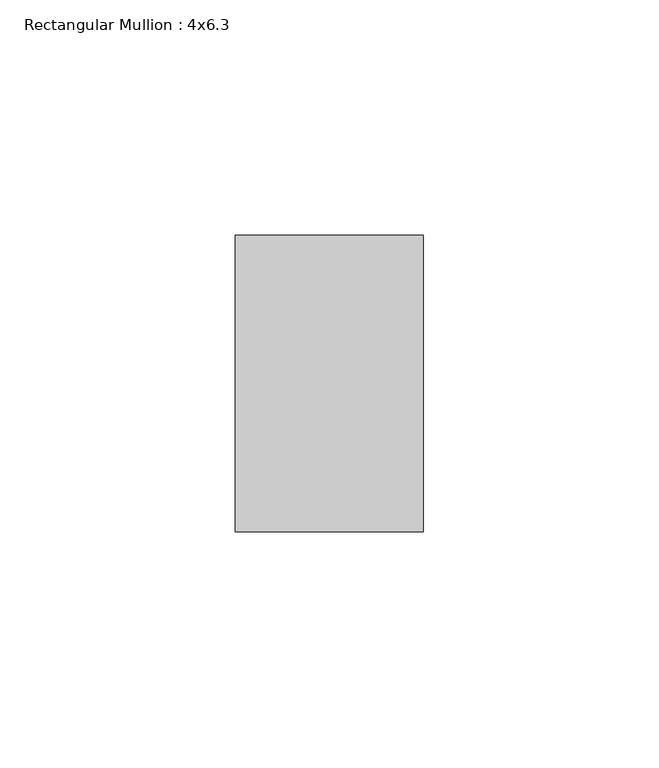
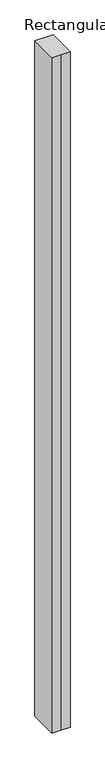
"""IFC4 building model written with IfcOpenShell, lengths in millimetres: member geometry, Rectangular Mullion : 4x6.3."""

from ifc_helpers import new_model, si_unit, frame, origin, place, context, project, spatial, polyline, outline, extrude, source, transform, mapped, element, save


def rectangular_mullion_4x6_3_c7492cc3(model_context):
    return source(origin(), model_context, "Body", "SweptSolid", [
        extrude(outline(polyline([(-20.0, 20.0), (-20.0, 83.0), (20.0, 83.0), (20.0, 20.0), (0.0, 20.0), (-20.0, 20.0)])), frame((0.0, 0.0, -1554.214977), z_axis=(0.0, 0.0, 1.0), x_axis=(1.0, 0.0, 0.0)), (0.0, 0.0, 1.0), 1554.214977),
    ])


if __name__ == "__main__":
    model = new_model("IFC4")
    model_context = context("Model", 3, world=origin())
    ifc_project = project(units=[si_unit("LENGTHUNIT", "METRE", prefix="MILLI")], contexts=[model_context])
    site = spatial("IfcSite", under=ifc_project)
    building = spatial("IfcBuilding", under=site)
    placement = place(None, origin())
    rectangular_mullion_4x6_3_shape = rectangular_mullion_4x6_3_c7492cc3(model_context)
    element("IfcMember", 1, ObjectType="Rectangular Mullion : 4x6.3", at=placement, inside=building, context=model_context, shape_type="MappedRepresentation", body=[
        mapped(rectangular_mullion_4x6_3_shape, transform((0.0, 0.0, 0.0), x_axis=(1.0, 0.0, 0.0), y_axis=(0.0, 1.0, 0.0), z_axis=(0.0, 0.0, 1.0))),
    ])
    save(model, "model.ifc")
